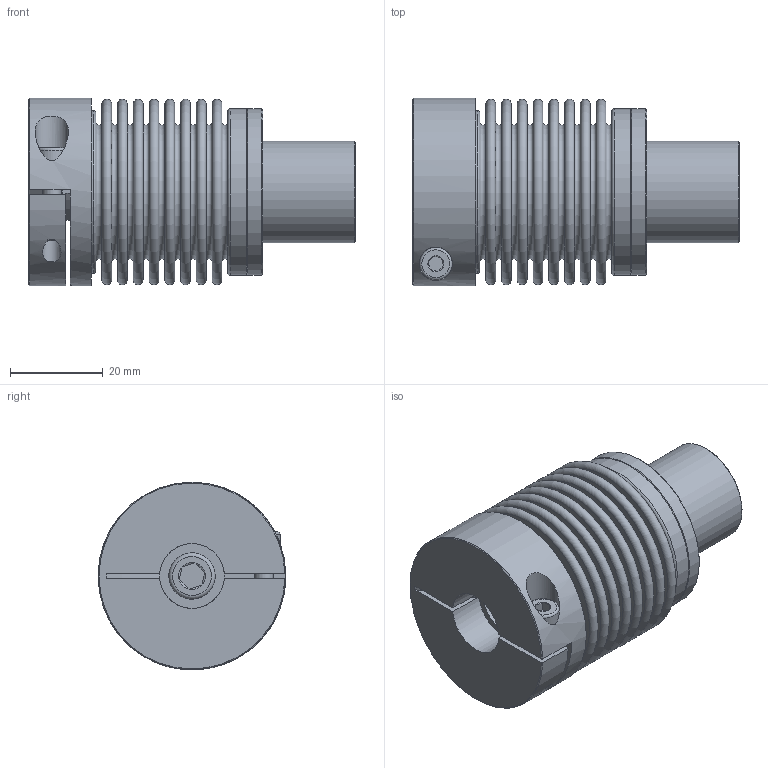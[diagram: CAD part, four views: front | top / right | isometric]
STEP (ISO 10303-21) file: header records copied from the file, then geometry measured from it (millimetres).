
FILE_DESCRIPTION( ( 'Unknown' ), '1' );
FILE_NAME( 'K:/Konstruktion/cad kunden/3D - Daten/KB3/KB3-100-51.stp', 'Unknown', ( 'Unknown' ), ( 'Unknown' ), 'PSStep 16.0.42', 'Unknown', ' ' );
FILE_SCHEMA( ( 'AUTOMOTIVE_DESIGN { 1 0 10303 214 1 1 1 1 }' ) );
Length unit declared in the file: millimetre
Products named in the file (6): Assem1; KN10_Standard_D10; SN100; ISO EN DIN 4762 M4x16; ISO EN DIN 4762 M6x25; BL100_Standard_1
Assembly tree (5 placements, depth 2):
  Assem1
    KN10_Standard_D10
    SN100
    ISO EN DIN 4762 M4x16
    ISO EN DIN 4762 M6x25
    BL100_Standard_1
Bounding box: 70.5 x 40.5 x 40.5 mm (x, y, z)
Volume: 33842.1 mm3; surface area: 37572.8 mm2
Topology: 5 solids, 5 shells, 159 faces, 281 edges, 178 vertices
Faces by surface type: plane 75, torus 42, cylinder 23, cone 19
Full cylindrical faces by diameter (mm): 3.5 x1, 4 x3, 4.2 x1, 5 x1, 6 x2, 6.5 x1, 7 x1, 7.2 x1, 10 x1, 14 x1, 22 x1, 34.343 x1, 35.143 x1, 35.2 x2, 36 x2, 40.5 x1
Entity records: 5047 total; most frequent: CARTESIAN_POINT 768, DIRECTION 657, ORIENTED_EDGE 400, AXIS2_PLACEMENT_3D 309, EDGE_LOOP 284, FACE_OUTER_BOUND 222, EDGE_CURVE 200, VERTEX_POINT 182
